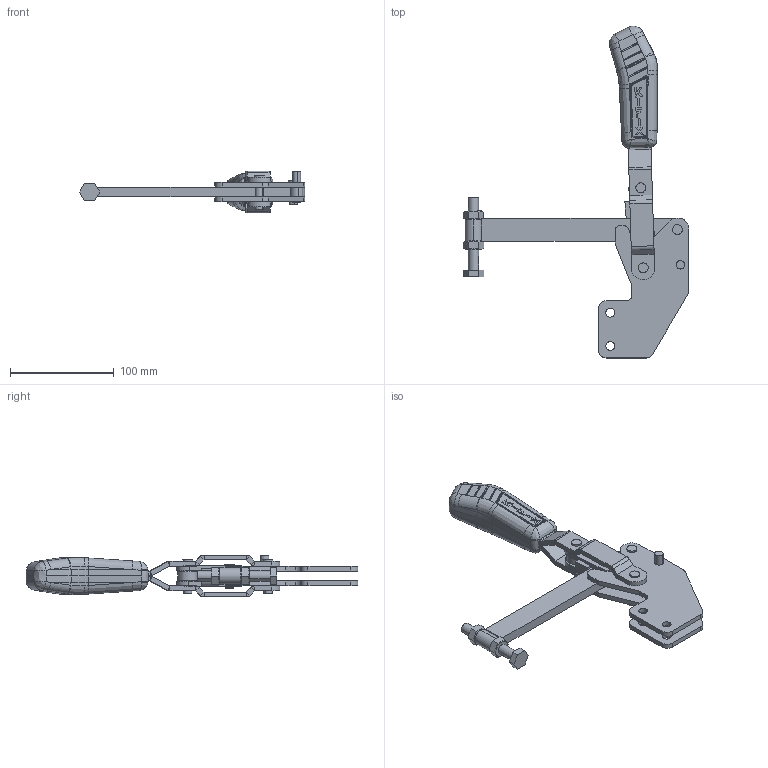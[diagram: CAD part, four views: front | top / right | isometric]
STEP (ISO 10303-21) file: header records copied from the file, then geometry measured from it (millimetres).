
FILE_DESCRIPTION (( 'STEP AP203' ), '1' );
FILE_NAME ('KF-411 RS.STEP', '2014-08-01T13:14:34', ( 'Ricardo' ), ( '' ), 'SwSTEP 2.0', 'SolidWorks 2013', '' );
FILE_SCHEMA (( 'CONFIG_CONTROL_DESIGN' ));
Length unit declared in the file: millimetre
Products named in the file (15): 11.50003; 04.20003; 12.50021; 05.20006; PSB-M10; 06.50009; KF-411 RS; 06.50010; 07.60003; 02.11021; 01.10014; 03.15005; 04.10003A_Direita; 20.20005; 04.10003B_Direita
Assembly tree (19 placements, depth 3):
  KF-411 RS
    01.10014  x2
    04.10003A_Direita
    04.10003B_Direita
    04.20003
    05.20006
    06.50009  x2
    06.50010  x2
    07.60003
    02.11021  x2
    03.15005
    PSB-M10
      20.20005
      11.50003  x2
      12.50021
Bounding box: 217.8 x 320.55 x 40.5 mm (x, y, z)
Volume: 293124.8 mm3; surface area: 113359.6 mm2
Topology: 18 solids, 18 shells, 757 faces, 1853 edges, 1143 vertices
Faces by surface type: plane 292, cylinder 231, bspline 143, sphere 48, cone 40, torus 3
Entity records: 23687 total; most frequent: CARTESIAN_POINT 8572, ORIENTED_EDGE 3050, DIRECTION 2400, EDGE_CURVE 1525, VERTEX_POINT 953, AXIS2_PLACEMENT_3D 931, EDGE_LOOP 686, ADVANCED_FACE 625
